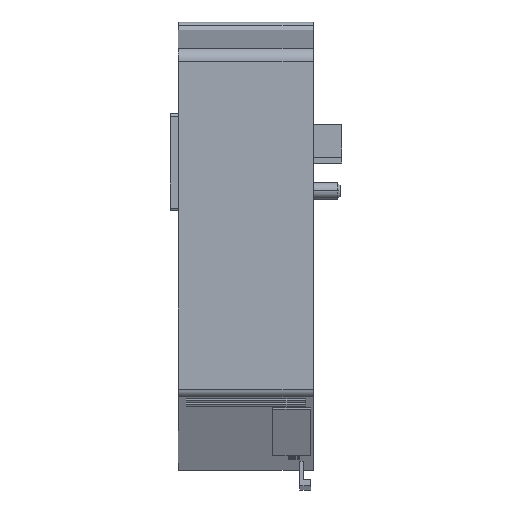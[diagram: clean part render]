
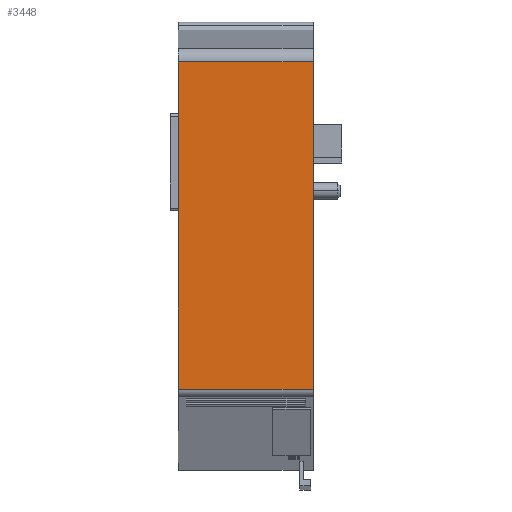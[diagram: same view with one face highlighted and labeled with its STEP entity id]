
A CAD part, front view. The second image highlights one B-rep face of the part: STEP entity #3448.
In plain terms, the highlighted planar face has unit normal (0, -1, 0).
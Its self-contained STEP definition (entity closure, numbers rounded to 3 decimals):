
#3428=AXIS2_PLACEMENT_3D('Plane Axis2P3D',#3425,#3426,#3427) ;
#2738=CARTESIAN_POINT('Vertex',(25.,-1.6,-0.598)) ;
#2741=CARTESIAN_POINT('Line Origine',(25.,-1.6,-30.942)) ;
#2745=CARTESIAN_POINT('Vertex',(25.,-1.6,-61.286)) ;
#3409=CARTESIAN_POINT('Vertex',(0.,-1.6,-0.598)) ;
#3412=CARTESIAN_POINT('Line Origine',(12.5,-1.6,-0.598)) ;
#3425=CARTESIAN_POINT('Axis2P3D Location',(0.,-1.6,-0.598)) ;
#3430=CARTESIAN_POINT('Line Origine',(0.,-1.6,-30.942)) ;
#3434=CARTESIAN_POINT('Vertex',(0.,-1.6,-61.286)) ;
#3437=CARTESIAN_POINT('Line Origine',(12.5,-1.6,-61.286)) ;
#2742=DIRECTION('Vector Direction',(0.,0.,-1.)) ;
#3413=DIRECTION('Vector Direction',(1.,0.,0.)) ;
#3426=DIRECTION('Axis2P3D Direction',(0.,-1.,0.)) ;
#3427=DIRECTION('Axis2P3D XDirection',(0.,0.,-1.)) ;
#3431=DIRECTION('Vector Direction',(0.,0.,-1.)) ;
#3438=DIRECTION('Vector Direction',(1.,0.,0.)) ;
#2743=VECTOR('Line Direction',#2742,1.) ;
#3414=VECTOR('Line Direction',#3413,1.) ;
#3432=VECTOR('Line Direction',#3431,1.) ;
#3439=VECTOR('Line Direction',#3438,1.) ;
#3443=ORIENTED_EDGE('',*,*,#3416,.F.) ;
#3444=ORIENTED_EDGE('',*,*,#3436,.T.) ;
#3445=ORIENTED_EDGE('',*,*,#3441,.T.) ;
#3446=ORIENTED_EDGE('',*,*,#2747,.F.) ;
#3448=ADVANCED_FACE('Hauptk\X2\00F6\X0\rper',(#3447),#3429,.T.) ;
#2747=EDGE_CURVE('',#2739,#2746,#2744,.T.) ;
#3416=EDGE_CURVE('',#3410,#2739,#3415,.T.) ;
#3436=EDGE_CURVE('',#3410,#3435,#3433,.T.) ;
#3441=EDGE_CURVE('',#3435,#2746,#3440,.T.) ;
#3442=EDGE_LOOP('',(#3443,#3444,#3445,#3446)) ;
#3447=FACE_OUTER_BOUND('',#3442,.T.) ;
#2744=LINE('Line',#2741,#2743) ;
#3415=LINE('Line',#3412,#3414) ;
#3433=LINE('Line',#3430,#3432) ;
#3440=LINE('Line',#3437,#3439) ;
#3429=PLANE('',#3428) ;
#2739=VERTEX_POINT('',#2738) ;
#2746=VERTEX_POINT('',#2745) ;
#3410=VERTEX_POINT('',#3409) ;
#3435=VERTEX_POINT('',#3434) ;
